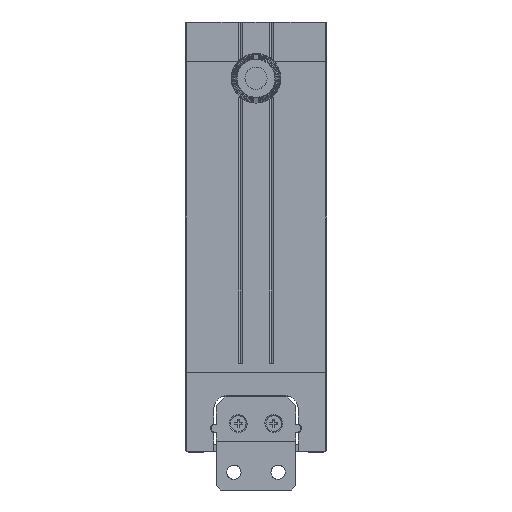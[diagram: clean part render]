
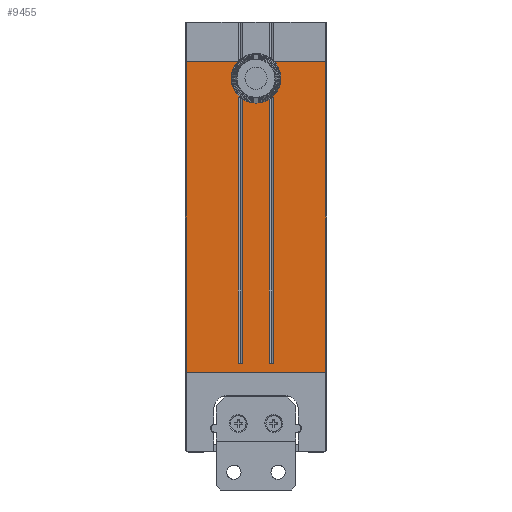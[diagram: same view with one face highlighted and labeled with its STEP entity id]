
A CAD part, left-side view. The second image highlights one B-rep face of the part: STEP entity #9455.
In plain terms, the highlighted planar face has unit normal (-1, 0, 0).
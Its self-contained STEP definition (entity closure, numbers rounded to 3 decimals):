
#7121=CARTESIAN_POINT('Line Origine',(-24.,-15.7,-14.149)) ;
#7125=CARTESIAN_POINT('Vertex',(-24.,-15.7,-49.149)) ;
#7127=CARTESIAN_POINT('Vertex',(-24.,-15.7,20.851)) ;
#7174=CARTESIAN_POINT('Vertex',(-24.,15.7,-49.149)) ;
#7177=CARTESIAN_POINT('Line Origine',(-24.,15.7,-14.149)) ;
#7181=CARTESIAN_POINT('Vertex',(-24.,15.7,20.851)) ;
#7420=CARTESIAN_POINT('Vertex',(-24.,-3.75,17.151)) ;
#7425=CARTESIAN_POINT('Line Origine',(-24.,-3.75,19.001)) ;
#7429=CARTESIAN_POINT('Vertex',(-24.,-3.75,20.851)) ;
#7485=CARTESIAN_POINT('Vertex',(-24.,3.75,17.151)) ;
#7488=CARTESIAN_POINT('Axis2P3D Location',(-24.,0.,17.151)) ;
#7518=CARTESIAN_POINT('Vertex',(-24.,3.75,20.851)) ;
#7521=CARTESIAN_POINT('Line Origine',(-24.,3.75,19.001)) ;
#8640=CARTESIAN_POINT('Line Origine',(-24.,0.,-49.149)) ;
#8844=CARTESIAN_POINT('Line Origine',(-24.,9.725,20.851)) ;
#8849=CARTESIAN_POINT('Line Origine',(-24.,-9.725,20.851)) ;
#9372=CARTESIAN_POINT('Axis2P3D Location',(-24.,16.,-49.149)) ;
#9387=CARTESIAN_POINT('Line Origine',(-24.,4.,-17.149)) ;
#9391=CARTESIAN_POINT('Vertex',(-24.,4.,12.851)) ;
#9393=CARTESIAN_POINT('Vertex',(-24.,4.,-47.149)) ;
#9396=CARTESIAN_POINT('Line Origine',(-24.,3.5,12.851)) ;
#9400=CARTESIAN_POINT('Vertex',(-24.,3.,12.851)) ;
#9403=CARTESIAN_POINT('Line Origine',(-24.,3.,-17.149)) ;
#9407=CARTESIAN_POINT('Vertex',(-24.,3.,-47.149)) ;
#9410=CARTESIAN_POINT('Line Origine',(-24.,3.5,-47.149)) ;
#9421=CARTESIAN_POINT('Line Origine',(-24.,-3.,-17.149)) ;
#9425=CARTESIAN_POINT('Vertex',(-24.,-3.,12.851)) ;
#9427=CARTESIAN_POINT('Vertex',(-24.,-3.,-47.149)) ;
#9430=CARTESIAN_POINT('Line Origine',(-24.,-3.5,12.851)) ;
#9434=CARTESIAN_POINT('Vertex',(-24.,-4.,12.851)) ;
#9437=CARTESIAN_POINT('Line Origine',(-24.,-4.,-17.149)) ;
#9441=CARTESIAN_POINT('Vertex',(-24.,-4.,-47.149)) ;
#9444=CARTESIAN_POINT('Line Origine',(-24.,-3.5,-47.149)) ;
#7122=DIRECTION('Vector Direction',(0.,0.,-1.)) ;
#7178=DIRECTION('Vector Direction',(0.,0.,1.)) ;
#7426=DIRECTION('Vector Direction',(0.,0.,1.)) ;
#7489=DIRECTION('Axis2P3D Direction',(-1.,-0.,0.)) ;
#7522=DIRECTION('Vector Direction',(0.,0.,1.)) ;
#8641=DIRECTION('Vector Direction',(0.,-1.,0.)) ;
#8845=DIRECTION('Vector Direction',(0.,-1.,0.)) ;
#8850=DIRECTION('Vector Direction',(0.,-1.,0.)) ;
#9373=DIRECTION('Axis2P3D Direction',(-1.,-0.,0.)) ;
#9374=DIRECTION('Axis2P3D XDirection',(0.,-1.,0.)) ;
#9388=DIRECTION('Vector Direction',(0.,0.,-1.)) ;
#9397=DIRECTION('Vector Direction',(0.,1.,0.)) ;
#9404=DIRECTION('Vector Direction',(0.,0.,-1.)) ;
#9411=DIRECTION('Vector Direction',(0.,1.,0.)) ;
#9422=DIRECTION('Vector Direction',(0.,0.,-1.)) ;
#9431=DIRECTION('Vector Direction',(0.,1.,0.)) ;
#9438=DIRECTION('Vector Direction',(0.,0.,-1.)) ;
#9445=DIRECTION('Vector Direction',(0.,1.,0.)) ;
#7490=AXIS2_PLACEMENT_3D('Circle Axis2P3D',#7488,#7489,$) ;
#9375=AXIS2_PLACEMENT_3D('Plane Axis2P3D',#9372,#9373,#9374) ;
#9378=ORIENTED_EDGE('',*,*,#8848,.T.) ;
#9379=ORIENTED_EDGE('',*,*,#7183,.F.) ;
#9380=ORIENTED_EDGE('',*,*,#8644,.F.) ;
#9381=ORIENTED_EDGE('',*,*,#7129,.T.) ;
#9382=ORIENTED_EDGE('',*,*,#8853,.T.) ;
#9383=ORIENTED_EDGE('',*,*,#7431,.F.) ;
#9384=ORIENTED_EDGE('',*,*,#7492,.F.) ;
#9385=ORIENTED_EDGE('',*,*,#7525,.F.) ;
#9416=ORIENTED_EDGE('',*,*,#9395,.F.) ;
#9417=ORIENTED_EDGE('',*,*,#9402,.F.) ;
#9418=ORIENTED_EDGE('',*,*,#9409,.T.) ;
#9419=ORIENTED_EDGE('',*,*,#9414,.T.) ;
#9450=ORIENTED_EDGE('',*,*,#9429,.F.) ;
#9451=ORIENTED_EDGE('',*,*,#9436,.F.) ;
#9452=ORIENTED_EDGE('',*,*,#9443,.T.) ;
#9453=ORIENTED_EDGE('',*,*,#9448,.T.) ;
#9420=FACE_BOUND('',#9415,.T.) ;
#9454=FACE_BOUND('',#9449,.T.) ;
#7123=VECTOR('Line Direction',#7122,1.) ;
#7179=VECTOR('Line Direction',#7178,1.) ;
#7427=VECTOR('Line Direction',#7426,1.) ;
#7523=VECTOR('Line Direction',#7522,1.) ;
#8642=VECTOR('Line Direction',#8641,1.) ;
#8846=VECTOR('Line Direction',#8845,1.) ;
#8851=VECTOR('Line Direction',#8850,1.) ;
#9389=VECTOR('Line Direction',#9388,1.) ;
#9398=VECTOR('Line Direction',#9397,1.) ;
#9405=VECTOR('Line Direction',#9404,1.) ;
#9412=VECTOR('Line Direction',#9411,1.) ;
#9423=VECTOR('Line Direction',#9422,1.) ;
#9432=VECTOR('Line Direction',#9431,1.) ;
#9439=VECTOR('Line Direction',#9438,1.) ;
#9446=VECTOR('Line Direction',#9445,1.) ;
#9455=ADVANCED_FACE('\X2\96F64EF651E04F554F53\X0\',(#9386,#9420,#9454),#9376,.T.) ;
#7491=CIRCLE('generated circle',#7490,3.75) ;
#7129=EDGE_CURVE('',#7126,#7128,#7124,.F.) ;
#7183=EDGE_CURVE('',#7175,#7182,#7180,.T.) ;
#7431=EDGE_CURVE('',#7421,#7430,#7428,.T.) ;
#7492=EDGE_CURVE('',#7486,#7421,#7491,.T.) ;
#7525=EDGE_CURVE('',#7519,#7486,#7524,.F.) ;
#8644=EDGE_CURVE('',#7126,#7175,#8643,.F.) ;
#8848=EDGE_CURVE('',#7519,#7182,#8847,.F.) ;
#8853=EDGE_CURVE('',#7128,#7430,#8852,.F.) ;
#9395=EDGE_CURVE('',#9392,#9394,#9390,.T.) ;
#9402=EDGE_CURVE('',#9401,#9392,#9399,.T.) ;
#9409=EDGE_CURVE('',#9401,#9408,#9406,.T.) ;
#9414=EDGE_CURVE('',#9408,#9394,#9413,.T.) ;
#9429=EDGE_CURVE('',#9426,#9428,#9424,.T.) ;
#9436=EDGE_CURVE('',#9435,#9426,#9433,.T.) ;
#9443=EDGE_CURVE('',#9435,#9442,#9440,.T.) ;
#9448=EDGE_CURVE('',#9442,#9428,#9447,.T.) ;
#9377=EDGE_LOOP('',(#9378,#9379,#9380,#9381,#9382,#9383,#9384,#9385)) ;
#9415=EDGE_LOOP('',(#9416,#9417,#9418,#9419)) ;
#9449=EDGE_LOOP('',(#9450,#9451,#9452,#9453)) ;
#9386=FACE_OUTER_BOUND('',#9377,.T.) ;
#7124=LINE('Line',#7121,#7123) ;
#7180=LINE('Line',#7177,#7179) ;
#7428=LINE('Line',#7425,#7427) ;
#7524=LINE('Line',#7521,#7523) ;
#8643=LINE('Line',#8640,#8642) ;
#8847=LINE('Line',#8844,#8846) ;
#8852=LINE('Line',#8849,#8851) ;
#9390=LINE('Line',#9387,#9389) ;
#9399=LINE('Line',#9396,#9398) ;
#9406=LINE('Line',#9403,#9405) ;
#9413=LINE('Line',#9410,#9412) ;
#9424=LINE('Line',#9421,#9423) ;
#9433=LINE('Line',#9430,#9432) ;
#9440=LINE('Line',#9437,#9439) ;
#9447=LINE('Line',#9444,#9446) ;
#9376=PLANE('Plane',#9375) ;
#7126=VERTEX_POINT('',#7125) ;
#7128=VERTEX_POINT('',#7127) ;
#7175=VERTEX_POINT('',#7174) ;
#7182=VERTEX_POINT('',#7181) ;
#7421=VERTEX_POINT('',#7420) ;
#7430=VERTEX_POINT('',#7429) ;
#7486=VERTEX_POINT('',#7485) ;
#7519=VERTEX_POINT('',#7518) ;
#9392=VERTEX_POINT('',#9391) ;
#9394=VERTEX_POINT('',#9393) ;
#9401=VERTEX_POINT('',#9400) ;
#9408=VERTEX_POINT('',#9407) ;
#9426=VERTEX_POINT('',#9425) ;
#9428=VERTEX_POINT('',#9427) ;
#9435=VERTEX_POINT('',#9434) ;
#9442=VERTEX_POINT('',#9441) ;
